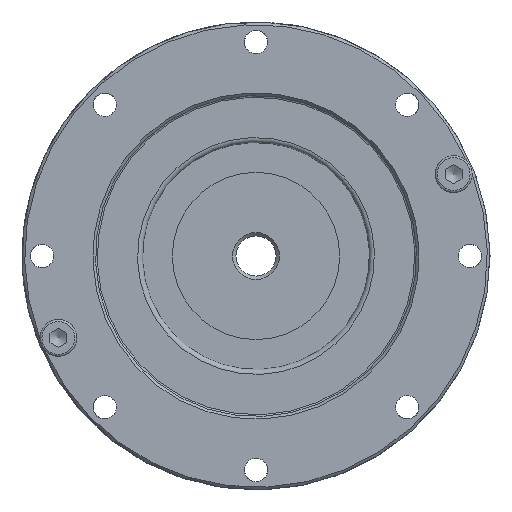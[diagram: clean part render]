
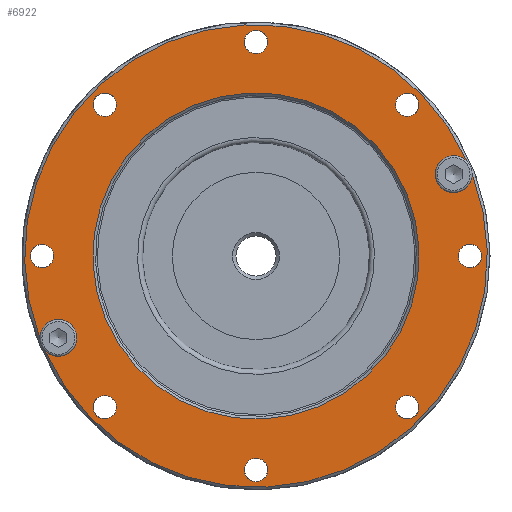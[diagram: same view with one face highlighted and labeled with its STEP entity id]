
A CAD part, left-side view. The second image highlights one B-rep face of the part: STEP entity #6922.
In plain terms, the highlighted planar face has unit normal (-1, 0, 0).
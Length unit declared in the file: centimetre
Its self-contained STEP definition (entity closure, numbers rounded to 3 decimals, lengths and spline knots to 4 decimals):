
#925=FACE_BOUND($,#1742,.T.);
#926=FACE_BOUND($,#1743,.T.);
#927=FACE_BOUND($,#1744,.T.);
#928=FACE_BOUND($,#1745,.T.);
#929=FACE_BOUND($,#1746,.T.);
#930=FACE_BOUND($,#1747,.T.);
#931=FACE_BOUND($,#1748,.T.);
#932=FACE_BOUND($,#1749,.T.);
#933=FACE_BOUND($,#1750,.T.);
#1241=FACE_OUTER_BOUND($,#1741,.T.);
#1741=EDGE_LOOP($,(#5005,#5006,#5007,#5008));
#1742=EDGE_LOOP($,(#5009));
#1743=EDGE_LOOP($,(#5010));
#1744=EDGE_LOOP($,(#5011));
#1745=EDGE_LOOP($,(#5012));
#1746=EDGE_LOOP($,(#5013));
#1747=EDGE_LOOP($,(#5014));
#1748=EDGE_LOOP($,(#5015));
#1749=EDGE_LOOP($,(#5016));
#1750=EDGE_LOOP($,(#5017));
#2590=CIRCLE($,#7762,3.46);
#2592=CIRCLE($,#7764,3.46);
#2593=CIRCLE($,#7766,0.275);
#2594=CIRCLE($,#7767,0.275);
#2595=CIRCLE($,#7768,0.175);
#2596=CIRCLE($,#7769,0.175);
#2597=CIRCLE($,#7770,0.175);
#2598=CIRCLE($,#7771,0.175);
#2599=CIRCLE($,#7772,0.175);
#2600=CIRCLE($,#7773,0.175);
#2601=CIRCLE($,#7774,0.175);
#2602=CIRCLE($,#7775,0.175);
#2603=CIRCLE($,#7776,2.44);
#3154=VERTEX_POINT($,#11626);
#3155=VERTEX_POINT($,#11627);
#3156=VERTEX_POINT($,#11629);
#3157=VERTEX_POINT($,#11631);
#3158=VERTEX_POINT($,#11637);
#3159=VERTEX_POINT($,#11639);
#3160=VERTEX_POINT($,#11641);
#3161=VERTEX_POINT($,#11643);
#3162=VERTEX_POINT($,#11645);
#3163=VERTEX_POINT($,#11647);
#3164=VERTEX_POINT($,#11649);
#3165=VERTEX_POINT($,#11651);
#3166=VERTEX_POINT($,#11653);
#3903=EDGE_CURVE($,#3154,#3156,#2590,.T.);
#3905=EDGE_CURVE($,#3157,#3155,#2592,.T.);
#3906=EDGE_CURVE($,#3154,#3155,#2593,.T.);
#3907=EDGE_CURVE($,#3157,#3156,#2594,.T.);
#3908=EDGE_CURVE($,#3158,#3158,#2595,.T.);
#3909=EDGE_CURVE($,#3159,#3159,#2596,.T.);
#3910=EDGE_CURVE($,#3160,#3160,#2597,.T.);
#3911=EDGE_CURVE($,#3161,#3161,#2598,.T.);
#3912=EDGE_CURVE($,#3162,#3162,#2599,.T.);
#3913=EDGE_CURVE($,#3163,#3163,#2600,.T.);
#3914=EDGE_CURVE($,#3164,#3164,#2601,.T.);
#3915=EDGE_CURVE($,#3165,#3165,#2602,.T.);
#3916=EDGE_CURVE($,#3166,#3166,#2603,.T.);
#5005=ORIENTED_EDGE($,*,*,#3906,.T.);
#5006=ORIENTED_EDGE($,*,*,#3905,.F.);
#5007=ORIENTED_EDGE($,*,*,#3907,.T.);
#5008=ORIENTED_EDGE($,*,*,#3903,.F.);
#5009=ORIENTED_EDGE($,*,*,#3908,.T.);
#5010=ORIENTED_EDGE($,*,*,#3909,.T.);
#5011=ORIENTED_EDGE($,*,*,#3910,.T.);
#5012=ORIENTED_EDGE($,*,*,#3911,.T.);
#5013=ORIENTED_EDGE($,*,*,#3912,.T.);
#5014=ORIENTED_EDGE($,*,*,#3913,.T.);
#5015=ORIENTED_EDGE($,*,*,#3914,.T.);
#5016=ORIENTED_EDGE($,*,*,#3915,.T.);
#5017=ORIENTED_EDGE($,*,*,#3916,.F.);
#6206=PLANE($,#7765);
#6922=ADVANCED_FACE($,(#1241,#925,#926,#927,#928,#929,#930,#931,#932,#933),
#6206,.T.);
#7762=AXIS2_PLACEMENT_3D($,#11630,#9433,#9434);
#7764=AXIS2_PLACEMENT_3D($,#11633,#9437,#9438);
#7765=AXIS2_PLACEMENT_3D($,#11634,#9439,#9440);
#7766=AXIS2_PLACEMENT_3D($,#11635,#9441,#9442);
#7767=AXIS2_PLACEMENT_3D($,#11636,#9443,#9444);
#7768=AXIS2_PLACEMENT_3D($,#11638,#9445,#9446);
#7769=AXIS2_PLACEMENT_3D($,#11640,#9447,#9448);
#7770=AXIS2_PLACEMENT_3D($,#11642,#9449,#9450);
#7771=AXIS2_PLACEMENT_3D($,#11644,#9451,#9452);
#7772=AXIS2_PLACEMENT_3D($,#11646,#9453,#9454);
#7773=AXIS2_PLACEMENT_3D($,#11648,#9455,#9456);
#7774=AXIS2_PLACEMENT_3D($,#11650,#9457,#9458);
#7775=AXIS2_PLACEMENT_3D($,#11652,#9459,#9460);
#7776=AXIS2_PLACEMENT_3D($,#11654,#9461,#9462);
#9433=DIRECTION('center_axis',(1.,0.,0.));
#9434=DIRECTION('ref_axis',(0.,-0.924,0.383));
#9437=DIRECTION('center_axis',(1.,0.,0.));
#9438=DIRECTION('ref_axis',(0.,-0.924,0.383));
#9439=DIRECTION('center_axis',(-1.,0.,0.));
#9440=DIRECTION('ref_axis',(0.,0.383,0.924));
#9441=DIRECTION('center_axis',(1.,0.,0.));
#9442=DIRECTION('ref_axis',(0.,1.,0.));
#9443=DIRECTION('center_axis',(1.,0.,0.));
#9444=DIRECTION('ref_axis',(0.,1.,0.));
#9445=DIRECTION('center_axis',(1.,0.,0.));
#9446=DIRECTION('ref_axis',(0.,0.924,0.383));
#9447=DIRECTION('center_axis',(1.,0.,0.));
#9448=DIRECTION('ref_axis',(0.,0.924,-0.383));
#9449=DIRECTION('center_axis',(1.,0.,0.));
#9450=DIRECTION('ref_axis',(0.,0.383,-0.924));
#9451=DIRECTION('center_axis',(1.,0.,0.));
#9452=DIRECTION('ref_axis',(0.,-0.924,-0.383));
#9453=DIRECTION('center_axis',(1.,0.,0.));
#9454=DIRECTION('ref_axis',(0.,-0.924,0.383));
#9455=DIRECTION('center_axis',(1.,0.,0.));
#9456=DIRECTION('ref_axis',(0.,-0.383,0.924));
#9457=DIRECTION('center_axis',(1.,0.,0.));
#9458=DIRECTION('ref_axis',(0.,-0.383,-0.924));
#9459=DIRECTION('center_axis',(1.,0.,0.));
#9460=DIRECTION('ref_axis',(0.,0.383,0.924));
#9461=DIRECTION('center_axis',(-1.,0.,0.));
#9462=DIRECTION('ref_axis',(0.,-0.924,0.383));
#11626=CARTESIAN_POINT('',(-0.24,3.0733,-1.1078));
#11627=CARTESIAN_POINT('',(-0.24,3.002,-1.2799));
#11629=CARTESIAN_POINT('',(-0.24,-3.3176,1.5394));
#11630=CARTESIAN_POINT('Origin',(-0.24,-0.1578,0.1298));
#11631=CARTESIAN_POINT('',(-0.24,-3.3889,1.3673));
#11633=CARTESIAN_POINT('Origin',(-0.24,-0.1578,0.1298));
#11634=CARTESIAN_POINT('Origin',(-0.24,3.0758,-1.2096));
#11635=CARTESIAN_POINT('Origin',(-0.24,2.7986,-1.0948));
#11636=CARTESIAN_POINT('Origin',(-0.24,-3.1142,1.3544));
#11637=CARTESIAN_POINT('',(-0.24,0.0039,-3.0033));
#11638=CARTESIAN_POINT('Origin',(-0.24,-0.1578,
-3.0702));
#11639=CARTESIAN_POINT('',(-0.24,-2.2588,-2.1999));
#11640=CARTESIAN_POINT('Origin',(-0.24,-2.4205,-2.133));
#11641=CARTESIAN_POINT('',(-0.24,-3.2908,-0.0319));
#11642=CARTESIAN_POINT('Origin',(-0.24,-3.3578,0.1298));
#11643=CARTESIAN_POINT('',(-0.24,-0.3195,3.2628));
#11644=CARTESIAN_POINT('Origin',(-0.24,-0.1578,
3.3298));
#11645=CARTESIAN_POINT('',(-0.24,1.9433,2.4595));
#11646=CARTESIAN_POINT('Origin',(-0.24,2.105,2.3925));
#11647=CARTESIAN_POINT('',(-0.24,2.9752,0.2915));
#11648=CARTESIAN_POINT('Origin',(-0.24,3.0422,0.1298));
#11649=CARTESIAN_POINT('',(-0.24,-2.4875,2.2308));
#11650=CARTESIAN_POINT('Origin',(-0.24,-2.4205,2.3925));
#11651=CARTESIAN_POINT('',(-0.24,2.1719,-1.9713));
#11652=CARTESIAN_POINT('Origin',(-0.24,2.105,-2.133));
#11653=CARTESIAN_POINT('',(-0.24,2.0965,-0.804));
#11654=CARTESIAN_POINT('Origin',(-0.24,-0.1578,0.1298));
